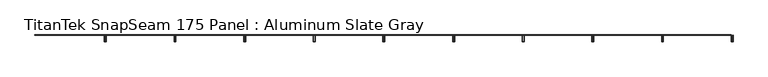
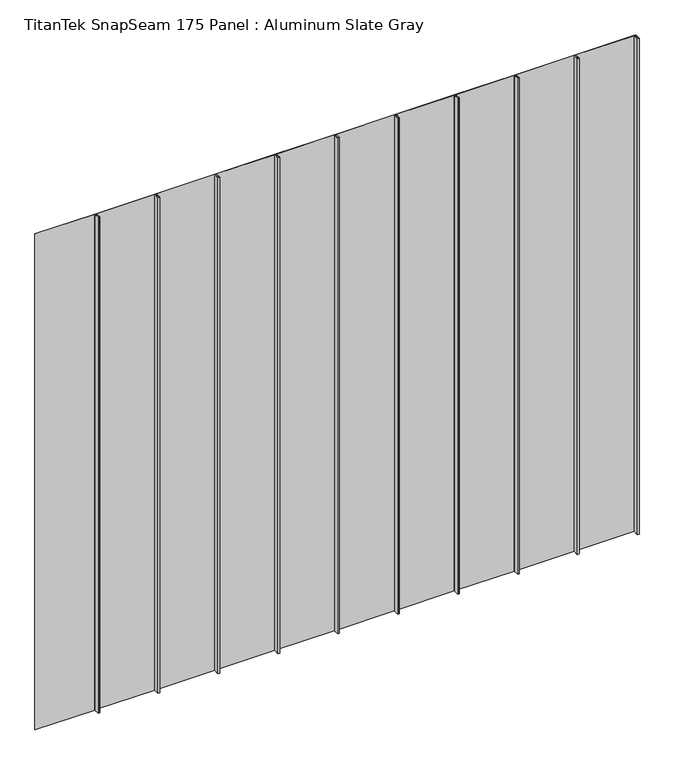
"""IFC4 building model written with IfcOpenShell, lengths in millimetres: proxy geometry, TitanTek SnapSeam 175 Panel : Aluminum Slate Gray."""

from ifc_helpers import new_model, si_unit, origin, origin_with_axes, place, context, project, spatial, polyline, outline, extrude, source, transform, mapped, element, save


def titantek_snapseam_175_panel_aluminum_slate_gray_91694518(model_context):
    return source(origin(), model_context, "Body", "SweptSolid", [
        extrude(outline(polyline([(4571.0078125, -0.9921875), (4114.8, -0.9921875), (4114.8, 0.0), (4572.0, 0.0), (4572.0, -43.4578125), (4582.715625, -43.4578125), (4582.715625, -0.9921875), (4583.7078125, -0.9921875), (4583.7078125, -44.45), (4571.0078125, -44.45), (4571.0078125, -0.9921875)])), origin_with_axes(), (0.0, 0.0, 1.0), 4000.0),
        extrude(outline(polyline([(4113.8078125, -0.9921875), (3657.6, -0.9921875), (3657.6, 0.0), (4114.8, 0.0), (4114.8, -43.4578125), (4125.515625, -43.4578125), (4125.515625, -0.9921875), (4126.5078125, -0.9921875), (4126.5078125, -44.45), (4113.8078125, -44.45), (4113.8078125, -0.9921875)])), origin_with_axes(), (0.0, 0.0, 1.0), 4000.0),
        extrude(outline(polyline([(3656.6078125, -0.9921875), (3200.4, -0.9921875), (3200.4, 0.0), (3657.6, 0.0), (3657.6, -43.4578125), (3668.315625, -43.4578125), (3668.315625, -0.9921875), (3669.3078125, -0.9921875), (3669.3078125, -44.45), (3656.6078125, -44.45), (3656.6078125, -0.9921875)])), origin_with_axes(), (0.0, 0.0, 1.0), 4000.0),
        extrude(outline(polyline([(3199.4078125, -0.9921875), (2743.2, -0.9921875), (2743.2, 0.0), (3200.4, 0.0), (3200.4, -43.4578125), (3211.115625, -43.4578125), (3211.115625, -0.9921875), (3212.1078125, -0.9921875), (3212.1078125, -44.45), (3199.4078125, -44.45), (3199.4078125, -0.9921875)])), origin_with_axes(), (0.0, 0.0, 1.0), 4000.0),
        extrude(outline(polyline([(2742.2078125, -0.9921875), (2286.0, -0.9921875), (2286.0, 0.0), (2743.2, 0.0), (2743.2, -43.4578125), (2753.915625, -43.4578125), (2753.915625, -0.9921875), (2754.9078125, -0.9921875), (2754.9078125, -44.45), (2742.2078125, -44.45), (2742.2078125, -0.9921875)])), origin_with_axes(), (0.0, 0.0, 1.0), 4000.0),
        extrude(outline(polyline([(2285.0078125, -0.9921875), (1828.8, -0.9921875), (1828.8, 0.0), (2286.0, 0.0), (2286.0, -43.4578125), (2296.715625, -43.4578125), (2296.715625, -0.9921875), (2297.7078125, -0.9921875), (2297.7078125, -44.45), (2285.0078125, -44.45), (2285.0078125, -0.9921875)])), origin_with_axes(), (0.0, 0.0, 1.0), 4000.0),
        extrude(outline(polyline([(1827.8078125, -0.9921875), (1371.6, -0.9921875), (1371.6, 0.0), (1828.8, 0.0), (1828.8, -43.4578125), (1839.515625, -43.4578125), (1839.515625, -0.9921875), (1840.5078125, -0.9921875), (1840.5078125, -44.45), (1827.8078125, -44.45), (1827.8078125, -0.9921875)])), origin_with_axes(), (0.0, 0.0, 1.0), 4000.0),
        extrude(outline(polyline([(1370.6078125, -0.9921875), (914.4, -0.9921875), (914.4, 0.0), (1371.6, 0.0), (1371.6, -43.4578125), (1382.315625, -43.4578125), (1382.315625, -0.9921875), (1383.3078125, -0.9921875), (1383.3078125, -44.45), (1370.6078125, -44.45), (1370.6078125, -0.9921875)])), origin_with_axes(), (0.0, 0.0, 1.0), 4000.0),
        extrude(outline(polyline([(913.4078125, -0.9921875), (457.2, -0.9921875), (457.2, 0.0), (914.4, 0.0), (914.4, -43.4578125), (925.115625, -43.4578125), (925.115625, -0.9921875), (926.1078125, -0.9921875), (926.1078125, -44.45), (913.4078125, -44.45), (913.4078125, -0.9921875)])), origin_with_axes(), (0.0, 0.0, 1.0), 4000.0),
        extrude(outline(polyline([(456.2078125, -0.9921875), (0.0, -0.9921875), (0.0, 0.0), (457.2, 0.0), (457.2, -43.4578125), (467.915625, -43.4578125), (467.915625, -0.9921875), (468.9078125, -0.9921875), (468.9078125, -44.45), (456.2078125, -44.45), (456.2078125, -0.9921875)])), origin_with_axes(), (0.0, 0.0, 1.0), 4000.0),
    ])


if __name__ == "__main__":
    model = new_model("IFC4")
    model_context = context("Model", 3, world=origin())
    ifc_project = project(units=[si_unit("LENGTHUNIT", "METRE", prefix="MILLI")], contexts=[model_context])
    site = spatial("IfcSite", under=ifc_project)
    building = spatial("IfcBuilding", under=site)
    placement = place(None, origin())
    titantek_snapseam_175_panel_aluminum_slate_gray_shape = titantek_snapseam_175_panel_aluminum_slate_gray_91694518(model_context)
    element("IfcBuildingElementProxy", 1, Name="TitanTek SnapSeam 175 Panel : Aluminum Slate Gray", ObjectType="TitanTek SnapSeam 175 Panel : Aluminum Slate Gray", at=placement, inside=building, context=model_context, shape_type="MappedRepresentation", body=[
        mapped(titantek_snapseam_175_panel_aluminum_slate_gray_shape, transform((0.0, 0.0, 0.0), x_axis=(1.0, 0.0, 0.0), y_axis=(0.0, 1.0, 0.0), z_axis=(0.0, 0.0, 1.0))),
    ])
    save(model, "model.ifc")
